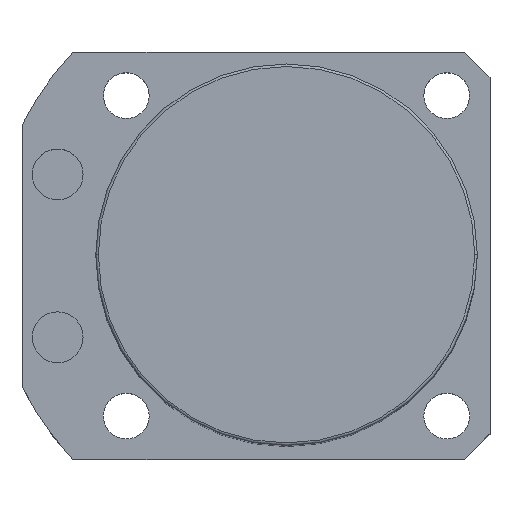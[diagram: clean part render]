
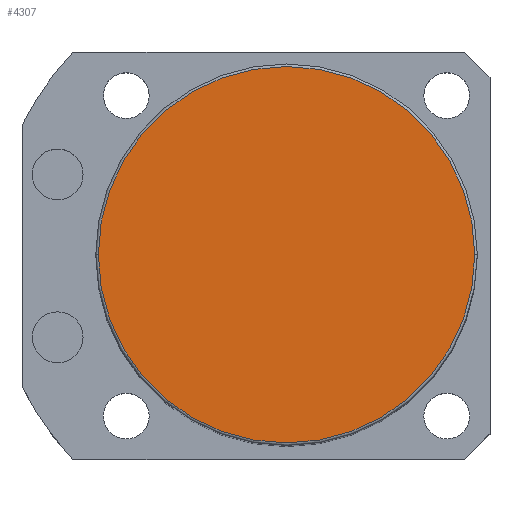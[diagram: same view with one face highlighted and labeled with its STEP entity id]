
A CAD part, top view. The second image highlights one B-rep face of the part: STEP entity #4307.
In plain terms, the highlighted planar face has unit normal (0, 0, 1).
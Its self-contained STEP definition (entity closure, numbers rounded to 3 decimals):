
#455 = DIRECTION ( 'NONE',  ( 0., 0., 1. ) ) ;
#547 = PLANE ( 'NONE',  #5824 ) ;
#920 = EDGE_CURVE ( 'NONE', #4540, #984, #3031, .T. ) ;
#984 = VERTEX_POINT ( 'NONE', #6109 ) ;
#1191 = ORIENTED_EDGE ( 'NONE', *, *, #1468, .T. ) ;
#1468 = EDGE_CURVE ( 'NONE', #984, #4540, #5129, .T. ) ;
#1501 = CARTESIAN_POINT ( 'NONE',  ( 0., 0., 145.5 ) ) ;
#1535 = DIRECTION ( 'NONE',  ( 1., 0., 0. ) ) ;
#1542 = DIRECTION ( 'NONE',  ( 1., 0., 0. ) ) ;
#2055 = ORIENTED_EDGE ( 'NONE', *, *, #920, .T. ) ;
#2516 = CARTESIAN_POINT ( 'NONE',  ( 0., 0., 145.5 ) ) ;
#2938 = DIRECTION ( 'NONE',  ( 0., 0., 1. ) ) ;
#2978 = EDGE_LOOP ( 'NONE', ( #2055, #1191 ) ) ;
#3006 = FACE_OUTER_BOUND ( 'NONE', #2978, .T. ) ;
#3031 = CIRCLE ( 'NONE', #3833, 37. ) ;
#3432 = AXIS2_PLACEMENT_3D ( 'NONE', #1501, #2938, #1542 ) ;
#3470 = DIRECTION ( 'NONE',  ( 0., 0., 1. ) ) ;
#3496 = CARTESIAN_POINT ( 'NONE',  ( 0., 0., 145.5 ) ) ;
#3833 = AXIS2_PLACEMENT_3D ( 'NONE', #2516, #3470, #3976 ) ;
#3976 = DIRECTION ( 'NONE',  ( 1., 0., 0. ) ) ;
#4307 = ADVANCED_FACE ( 'NONE', ( #3006 ), #547, .T. ) ;
#4540 = VERTEX_POINT ( 'NONE', #6332 ) ;
#5129 = CIRCLE ( 'NONE', #3432, 37. ) ;
#5824 = AXIS2_PLACEMENT_3D ( 'NONE', #3496, #455, #1535 ) ;
#6109 = CARTESIAN_POINT ( 'NONE',  ( -37., 0., 145.5 ) ) ;
#6332 = CARTESIAN_POINT ( 'NONE',  ( 37., 0., 145.5 ) ) ;
